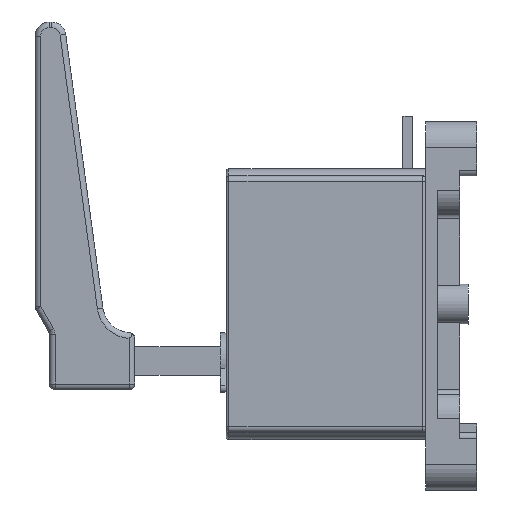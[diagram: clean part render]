
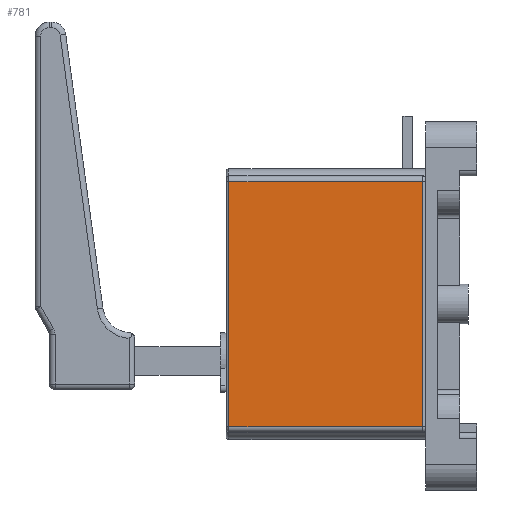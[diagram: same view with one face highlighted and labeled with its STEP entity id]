
A CAD part, left-side view. The second image highlights one B-rep face of the part: STEP entity #781.
In plain terms, the highlighted planar face has unit normal (-1, 0, 0).
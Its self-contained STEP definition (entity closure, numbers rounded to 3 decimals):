
#781=ADVANCED_FACE('',(#1081),#896,.F.);
#896=PLANE('',#4719);
#1081=FACE_OUTER_BOUND('',#1380,.T.);
#1380=EDGE_LOOP('',(#2471,#2472,#2473,#2474));
#2471=ORIENTED_EDGE('',*,*,#3563,.F.);
#2472=ORIENTED_EDGE('',*,*,#3549,.T.);
#2473=ORIENTED_EDGE('',*,*,#3564,.T.);
#2474=ORIENTED_EDGE('',*,*,#3240,.T.);
#2768=VERTEX_POINT('',#6596);
#2770=VERTEX_POINT('',#6601);
#2971=VERTEX_POINT('',#7339);
#2975=VERTEX_POINT('',#7371);
#3240=EDGE_CURVE('',#2768,#2770,#3733,.T.);
#3549=EDGE_CURVE('',#2971,#2975,#3896,.T.);
#3563=EDGE_CURVE('',#2971,#2770,#3903,.T.);
#3564=EDGE_CURVE('',#2975,#2768,#3904,.T.);
#3733=LINE('',#6602,#4073);
#3896=LINE('',#7372,#4236);
#3903=LINE('',#7424,#4243);
#3904=LINE('',#7426,#4244);
#4073=VECTOR('',#5288,1.);
#4236=VECTOR('',#5955,1.);
#4243=VECTOR('',#5980,1.);
#4244=VECTOR('',#5983,1.);
#4719=AXIS2_PLACEMENT_3D('',#7427,#5984,#5985);
#5288=DIRECTION('',(0.,0.,1.));
#5955=DIRECTION('',(0.,0.,-1.));
#5980=DIRECTION('',(0.,-1.,0.));
#5983=DIRECTION('',(0.,-1.,0.));
#5984=DIRECTION('',(1.,0.,0.));
#5985=DIRECTION('',(0.,0.,-1.));
#6596=CARTESIAN_POINT('',(-41.,1.,-43.));
#6601=CARTESIAN_POINT('',(-41.,1.,43.));
#6602=CARTESIAN_POINT('',(-41.,1.,-43.));
#7339=CARTESIAN_POINT('',(-41.,69.,43.));
#7371=CARTESIAN_POINT('',(-41.,69.,-43.));
#7372=CARTESIAN_POINT('',(-41.,69.,-43.));
#7424=CARTESIAN_POINT('',(-41.,35.,43.));
#7426=CARTESIAN_POINT('',(-41.,35.,-43.));
#7427=CARTESIAN_POINT('',(-41.,35.,-43.));
